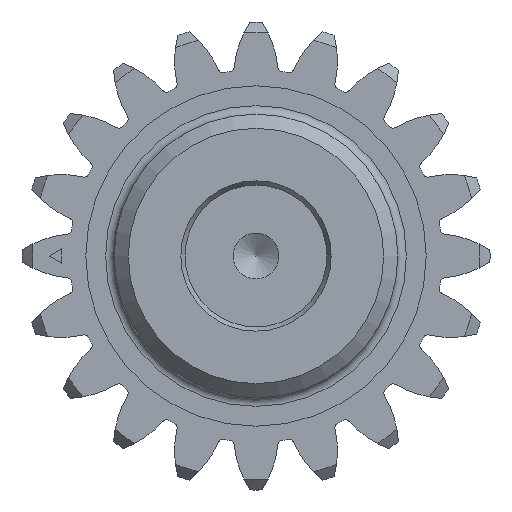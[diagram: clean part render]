
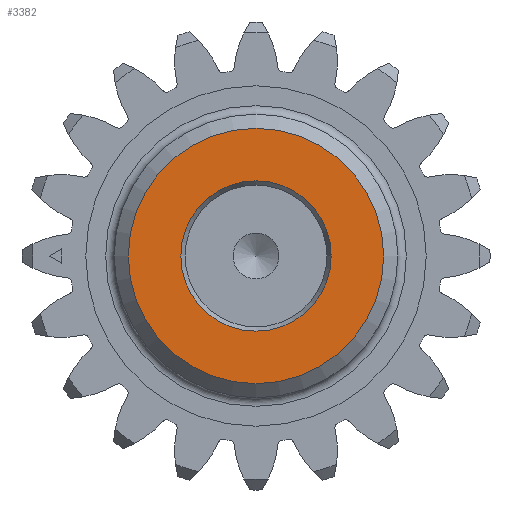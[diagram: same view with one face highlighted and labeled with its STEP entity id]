
A CAD part, left-side view. The second image highlights one B-rep face of the part: STEP entity #3382.
In plain terms, the highlighted planar face has unit normal (-1, 0, 0).
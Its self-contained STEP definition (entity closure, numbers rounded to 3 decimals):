
#280=FACE_BOUND('',#811,.T.);
#415=CIRCLE('',#3727,5.3);
#418=CIRCLE('',#3731,9.);
#613=FACE_OUTER_BOUND('',#810,.T.);
#810=EDGE_LOOP('',(#2427));
#811=EDGE_LOOP('',(#2428));
#1460=VERTEX_POINT('',#5590);
#1463=VERTEX_POINT('',#5598);
#1842=EDGE_CURVE('',#1460,#1460,#415,.T.);
#1846=EDGE_CURVE('',#1463,#1463,#418,.T.);
#2427=ORIENTED_EDGE('',*,*,#1846,.F.);
#2428=ORIENTED_EDGE('',*,*,#1842,.F.);
#3357=PLANE('',#3730);
#3382=ADVANCED_FACE('',(#613,#280),#3357,.T.);
#3727=AXIS2_PLACEMENT_3D('',#5591,#4400,#4401);
#3730=AXIS2_PLACEMENT_3D('',#5597,#4407,#4408);
#3731=AXIS2_PLACEMENT_3D('',#5599,#4409,#4410);
#4400=DIRECTION('center_axis',(-1.,0.,0.));
#4401=DIRECTION('ref_axis',(0.,-1.,0.));
#4407=DIRECTION('center_axis',(-1.,0.,0.));
#4408=DIRECTION('ref_axis',(0.,0.,1.));
#4409=DIRECTION('center_axis',(1.,0.,0.));
#4410=DIRECTION('ref_axis',(0.,-1.,0.));
#5590=CARTESIAN_POINT('',(-58.,5.3,0.));
#5591=CARTESIAN_POINT('Origin',(-58.,0.,0.));
#5597=CARTESIAN_POINT('Origin',(-58.,10.,0.));
#5598=CARTESIAN_POINT('',(-58.,9.,0.));
#5599=CARTESIAN_POINT('Origin',(-58.,0.,0.));
